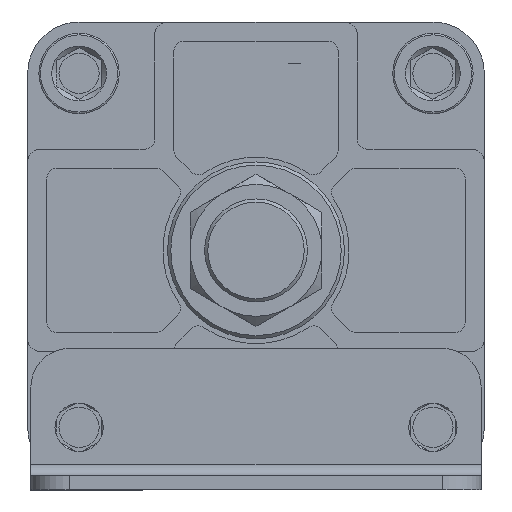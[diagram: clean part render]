
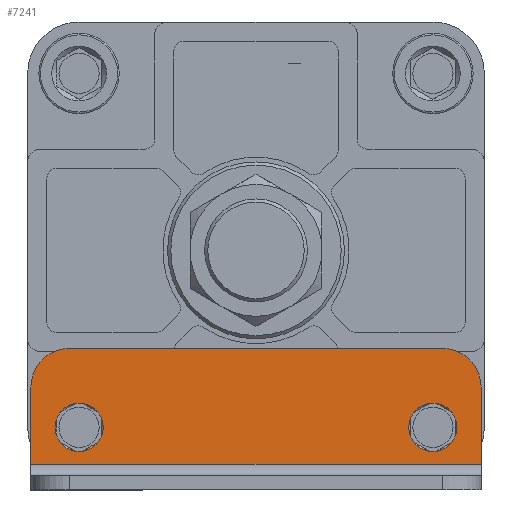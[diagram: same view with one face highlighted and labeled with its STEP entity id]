
A CAD part, front view. The second image highlights one B-rep face of the part: STEP entity #7241.
In plain terms, the highlighted planar face has unit normal (0, -1, 0).
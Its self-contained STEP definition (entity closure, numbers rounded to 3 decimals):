
#486=CIRCLE('',#7839,7.5);
#487=CIRCLE('',#7840,7.5);
#488=CIRCLE('',#7841,12.);
#489=CIRCLE('',#7842,12.);
#1821=ORIENTED_EDGE('',*,*,#2649,.T.);
#1822=ORIENTED_EDGE('',*,*,#2650,.T.);
#1823=ORIENTED_EDGE('',*,*,#2647,.F.);
#1824=ORIENTED_EDGE('',*,*,#2651,.T.);
#1825=ORIENTED_EDGE('',*,*,#2637,.F.);
#1826=ORIENTED_EDGE('',*,*,#2652,.T.);
#1827=ORIENTED_EDGE('',*,*,#2629,.F.);
#1828=ORIENTED_EDGE('',*,*,#2653,.T.);
#2629=EDGE_CURVE('',#3161,#3162,#3603,.T.);
#2637=EDGE_CURVE('',#3169,#3170,#3610,.T.);
#2647=EDGE_CURVE('',#3179,#3180,#3617,.T.);
#2649=EDGE_CURVE('',#3181,#3181,#486,.T.);
#2650=EDGE_CURVE('',#3182,#3182,#487,.T.);
#2651=EDGE_CURVE('',#3179,#3170,#3619,.F.);
#2652=EDGE_CURVE('',#3169,#3162,#488,.F.);
#2653=EDGE_CURVE('',#3161,#3180,#489,.F.);
#3161=VERTEX_POINT('',#10952);
#3162=VERTEX_POINT('',#10953);
#3169=VERTEX_POINT('',#10968);
#3170=VERTEX_POINT('',#10970);
#3179=VERTEX_POINT('',#10989);
#3180=VERTEX_POINT('',#10991);
#3181=VERTEX_POINT('',#10995);
#3182=VERTEX_POINT('',#10997);
#3603=LINE('',#10951,#4019);
#3610=LINE('',#10969,#4026);
#3617=LINE('',#10990,#4033);
#3619=LINE('',#10998,#4035);
#4019=VECTOR('',#9320,1000.);
#4026=VECTOR('',#9331,1000.);
#4033=VECTOR('',#9346,1000.);
#4035=VECTOR('',#9354,1000.);
#4400=EDGE_LOOP('',(#1821));
#4401=EDGE_LOOP('',(#1822));
#4402=EDGE_LOOP('',(#1823,#1824,#1825,#1826,#1827,#1828));
#4812=FACE_BOUND('',#4400,.T.);
#4813=FACE_BOUND('',#4401,.T.);
#4814=FACE_BOUND('',#4402,.T.);
#5026=PLANE('',#7838);
#7241=ADVANCED_FACE('',(#4812,#4813,#4814),#5026,.F.);
#7838=AXIS2_PLACEMENT_3D('',#10993,#9348,#9349);
#7839=AXIS2_PLACEMENT_3D('',#10994,#9350,#9351);
#7840=AXIS2_PLACEMENT_3D('',#10996,#9352,#9353);
#7841=AXIS2_PLACEMENT_3D('',#10999,#9355,#9356);
#7842=AXIS2_PLACEMENT_3D('',#11000,#9357,#9358);
#9320=DIRECTION('',(1.,0.,0.));
#9331=DIRECTION('',(0.,0.,-1.));
#9346=DIRECTION('',(0.,0.,1.));
#9348=DIRECTION('',(0.,1.,0.));
#9349=DIRECTION('',(0.,0.,1.));
#9350=DIRECTION('',(0.,1.,0.));
#9351=DIRECTION('',(1.,0.,0.));
#9352=DIRECTION('',(0.,1.,0.));
#9353=DIRECTION('',(1.,0.,0.));
#9354=DIRECTION('',(-1.,0.,0.));
#9355=DIRECTION('',(0.,1.,0.));
#9356=DIRECTION('',(0.,0.,1.));
#9357=DIRECTION('',(0.,1.,0.));
#9358=DIRECTION('',(0.,0.,1.));
#10951=CARTESIAN_POINT('',(0.,-4.5,-30.5));
#10952=CARTESIAN_POINT('',(-58.,-4.5,-30.5));
#10953=CARTESIAN_POINT('',(58.,-4.5,-30.5));
#10968=CARTESIAN_POINT('',(70.,-4.5,-42.5));
#10969=CARTESIAN_POINT('',(70.,-4.5,-30.5));
#10970=CARTESIAN_POINT('',(70.,-4.5,-66.5));
#10989=CARTESIAN_POINT('',(-70.,-4.5,-66.5));
#10990=CARTESIAN_POINT('',(-70.,-4.5,-70.));
#10991=CARTESIAN_POINT('',(-70.,-4.5,-42.5));
#10993=CARTESIAN_POINT('',(0.,-4.5,-1.5));
#10994=CARTESIAN_POINT('',(-55.,-4.5,-55.));
#10995=CARTESIAN_POINT('',(-47.5,-4.5,-55.));
#10996=CARTESIAN_POINT('',(55.,-4.5,-55.));
#10997=CARTESIAN_POINT('',(62.5,-4.5,-55.));
#10998=CARTESIAN_POINT('',(70.,-4.5,-66.5));
#10999=CARTESIAN_POINT('',(58.,-4.5,-42.5));
#11000=CARTESIAN_POINT('',(-58.,-4.5,-42.5));
